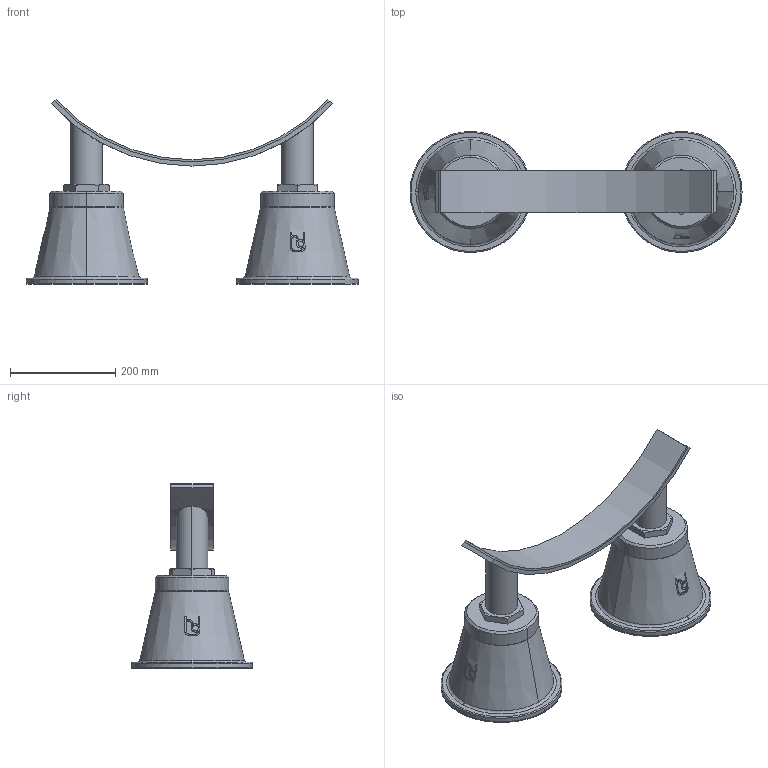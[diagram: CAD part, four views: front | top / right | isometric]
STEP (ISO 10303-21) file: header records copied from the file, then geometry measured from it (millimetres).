
FILE_DESCRIPTION(('STEP AP214'),'1');
FILE_NAME('RSRFN-DUO_DN700.stp','2018-07-02T09:16:33',(' '),(' '),'Spatial InterOp 3D',' ',' ');
FILE_SCHEMA(('automotive_design'));
Length unit declared in the file: millimetre
Products named in the file (10): 1; 2; 3; 4; 5; 6; 7; 8; 9; 10
Bounding box: 630 x 230 x 351.05 mm (x, y, z)
Volume: 10202574 mm3; surface area: 870009.6 mm2
Topology: 10 solids, 10 shells, 198 faces, 482 edges, 314 vertices
Faces by surface type: plane 80, cylinder 76, cone 34, torus 8
Entity records: 8605 total; most frequent: CARTESIAN_POINT 2172, DIRECTION 986, ORIENTED_EDGE 964, EDGE_CURVE 482, AXIS2_PLACEMENT_3D 384, VERTEX_POINT 314, LINE 218, VECTOR 218
